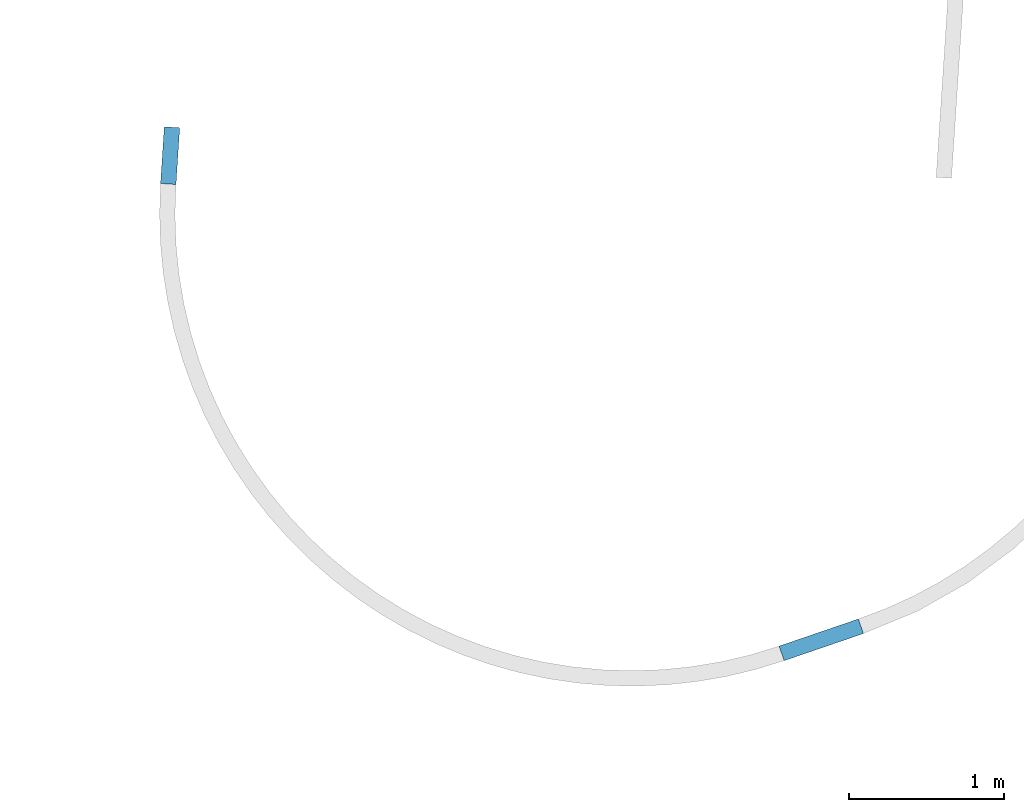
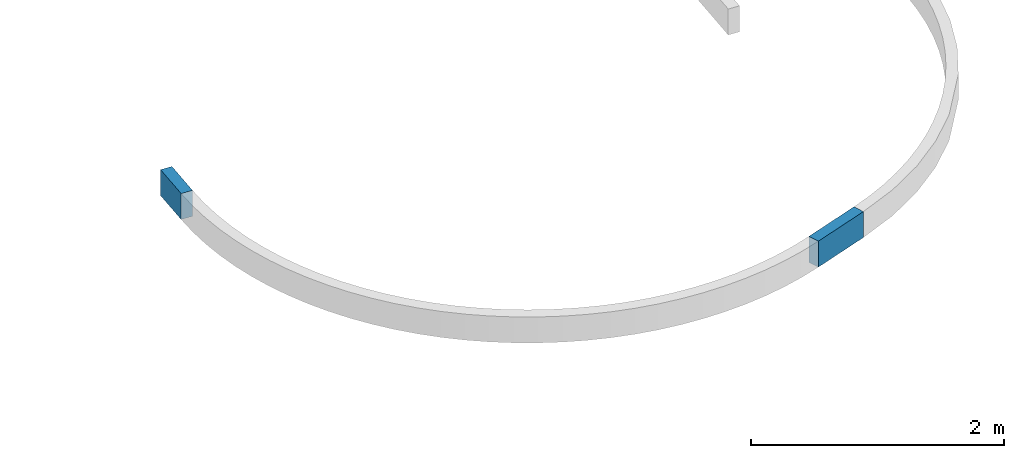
# One storey, part 8 of 112: 2 beams.
"""IFC2X3 building model written with IfcOpenShell, lengths in millimetres."""

from ifc_helpers import new_model, entity, si_unit, converted_unit, derived_unit, direction, frame, frame_2d, origin, place, context, subcontext, project, spatial, rectangle, extrude, material, type_object, element, save


model = new_model("IFC2X3")

# Units and contexts
model_context = context("Model", 3, precision=0.01, world=origin(), true_north=direction((6.123031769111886e-17, 1.0)))
body_context = subcontext(model_context, "Body", "Model", "MODEL_VIEW")
ifc_project = project(units=[si_unit("LENGTHUNIT", "METRE", prefix="MILLI"), si_unit("AREAUNIT", "SQUARE_METRE"), si_unit("VOLUMEUNIT", "CUBIC_METRE"), converted_unit("PLANEANGLEUNIT", "DEGREE", entity("IfcRatioMeasure", 0.017453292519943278), si_unit("PLANEANGLEUNIT", "RADIAN"), dimensions=[0, 0, 0, 0, 0, 0, 0]), si_unit("MASSUNIT", "GRAM", prefix="KILO"), derived_unit("MASSDENSITYUNIT", [(si_unit("MASSUNIT", "GRAM", prefix="KILO"), 1), (si_unit("LENGTHUNIT", "METRE"), -3)]), derived_unit("MOMENTOFINERTIAUNIT", [(si_unit("LENGTHUNIT", "METRE"), 4)]), si_unit("TIMEUNIT", "SECOND"), si_unit("FREQUENCYUNIT", "HERTZ"), si_unit("THERMODYNAMICTEMPERATUREUNIT", "DEGREE_CELSIUS"), derived_unit("THERMALTRANSMITTANCEUNIT", [(si_unit("MASSUNIT", "GRAM", prefix="KILO"), 1), (si_unit("THERMODYNAMICTEMPERATUREUNIT", "KELVIN"), -1), (si_unit("TIMEUNIT", "SECOND"), -3)]), derived_unit("THERMALCONDUCTANCEUNIT", [(si_unit("MASSUNIT", "GRAM", prefix="KILO"), 1), (si_unit("LENGTHUNIT", "METRE"), 1), (si_unit("THERMODYNAMICTEMPERATUREUNIT", "KELVIN"), -1), (si_unit("TIMEUNIT", "SECOND"), -3)]), derived_unit("VOLUMETRICFLOWRATEUNIT", [(si_unit("LENGTHUNIT", "METRE"), 3), (si_unit("TIMEUNIT", "SECOND"), -1)]), derived_unit("MASSFLOWRATEUNIT", [(si_unit("MASSUNIT", "GRAM", prefix="KILO"), 1), (si_unit("TIMEUNIT", "SECOND"), -1)]), derived_unit("ROTATIONALFREQUENCYUNIT", [(si_unit("TIMEUNIT", "SECOND"), -1)]), si_unit("ELECTRICCURRENTUNIT", "AMPERE"), si_unit("ELECTRICVOLTAGEUNIT", "VOLT"), si_unit("POWERUNIT", "WATT"), converted_unit("FORCEUNIT", "KIP", entity("IfcRatioMeasure", 2.088543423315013e-05), si_unit("FORCEUNIT", "NEWTON"), dimensions=[1, 1, -2, 0, 0, 0, 0]), si_unit("ILLUMINANCEUNIT", "LUX"), si_unit("LUMINOUSFLUXUNIT", "LUMEN"), si_unit("LUMINOUSINTENSITYUNIT", "CANDELA"), derived_unit("USERDEFINED", [(si_unit("MASSUNIT", "GRAM", prefix="KILO"), -1), (si_unit("LENGTHUNIT", "METRE"), -2), (si_unit("TIMEUNIT", "SECOND"), 3), (si_unit("LUMINOUSFLUXUNIT", "LUMEN"), 1)]), derived_unit("USERDEFINED", [(si_unit("MASSUNIT", "GRAM", prefix="KILO"), 1), (si_unit("LENGTHUNIT", "METRE"), 3), (si_unit("TIMEUNIT", "SECOND"), -3), (si_unit("ELECTRICCURRENTUNIT", "AMPERE"), -2)]), derived_unit("USERDEFINED", [(si_unit("LENGTHUNIT", "METRE"), 2), (si_unit("TIMEUNIT", "SECOND"), -2)]), derived_unit("SOUNDPOWERUNIT", [(si_unit("MASSUNIT", "GRAM", prefix="KILO"), 1), (si_unit("LENGTHUNIT", "METRE"), 2), (si_unit("TIMEUNIT", "SECOND"), -3)]), derived_unit("SOUNDPRESSUREUNIT", [(si_unit("MASSUNIT", "GRAM", prefix="KILO"), 1), (si_unit("LENGTHUNIT", "METRE"), -1), (si_unit("TIMEUNIT", "SECOND"), -2)]), derived_unit("LINEARVELOCITYUNIT", [(si_unit("LENGTHUNIT", "METRE"), 1), (si_unit("TIMEUNIT", "SECOND"), -1)]), si_unit("PRESSUREUNIT", "PASCAL"), derived_unit("USERDEFINED", [(si_unit("LENGTHUNIT", "METRE"), -2), (si_unit("MASSUNIT", "GRAM", prefix="KILO"), 1), (si_unit("TIMEUNIT", "SECOND"), -2)]), derived_unit("LINEARFORCEUNIT", [(si_unit("MASSUNIT", "GRAM", prefix="KILO"), 1), (si_unit("LENGTHUNIT", "METRE"), 1), (si_unit("TIMEUNIT", "SECOND"), -2), (si_unit("LENGTHUNIT", "METRE"), -1)]), derived_unit("PLANARFORCEUNIT", [(si_unit("MASSUNIT", "GRAM", prefix="KILO"), 1), (si_unit("LENGTHUNIT", "METRE"), 1), (si_unit("TIMEUNIT", "SECOND"), -2), (si_unit("LENGTHUNIT", "METRE"), -2)]), derived_unit("SPECIFICHEATCAPACITYUNIT", [(si_unit("LENGTHUNIT", "METRE"), 2), (si_unit("TIMEUNIT", "SECOND"), -2), (si_unit("THERMODYNAMICTEMPERATUREUNIT", "KELVIN"), -1)]), derived_unit("VAPORPERMEABILITYUNIT", [(si_unit("TIMEUNIT", "SECOND"), 1), (si_unit("LENGTHUNIT", "METRE"), -1)]), derived_unit("DYNAMICVISCOSITYUNIT", [(si_unit("MASSUNIT", "GRAM", prefix="KILO"), 1), (si_unit("LENGTHUNIT", "METRE"), -1), (si_unit("TIMEUNIT", "SECOND"), -1)]), derived_unit("THERMALEXPANSIONCOEFFICIENTUNIT", [(si_unit("THERMODYNAMICTEMPERATUREUNIT", "KELVIN"), -1)])], contexts=[model_context])

# Site, building, storey
site_placement = place(None, frame((0.0, 0.0, 0.0), z_axis=(0.0, 0.0, 1.0), x_axis=(0.8191520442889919, 0.5735764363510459, 0.0)))
site = spatial("IfcSite", under=ifc_project, at=site_placement, Name="Default", CompositionType="ELEMENT")
building_placement = place(site_placement, origin())
building = spatial("IfcBuilding", under=site, at=building_placement, CompositionType="ELEMENT")
storey_placement = place(building_placement, frame((0.0, 0.0, -3600.0)))
storey = spatial("IfcBuildingStorey", under=building, at=storey_placement, Name="0.UG -3.60", CompositionType="ELEMENT", Elevation=-3600.0000000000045)

# Beams
ifc_material = material(Name="Paveta_bordur")
beam_type_1 = type_object("IfcBeamType", Name="Beam-160 240377:Beam-160 240377", PredefinedType="NOTDEFINED")
beam_1_placement = place(storey_placement, origin())
element("IfcBeam", 1, at=beam_1_placement, inside=storey, type_object=beam_type_1, material=ifc_material, Name="Beam-160", ObjectType="Beam-160 240377:Beam-160 240377", context=body_context, shape_type="SweptSolid", body=[
    extrude(rectangle(XDim=250.00000000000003, YDim=100.00000000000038, at=frame_2d((2.7000623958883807e-13, 6.750155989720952e-12), x_axis=(1.0, 0.0))), frame((97798.66222278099, 128508.59577043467, 985.0), z_axis=(0.6258395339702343, 0.7799518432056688, 0.0), x_axis=(0.0, 0.0, -1.0)), (0.0, 0.0, 1.0), 367.24590164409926),
])
beam_type_2 = type_object("IfcBeamType", Name="Beam-164 236919:Beam-164 236919", PredefinedType="NOTDEFINED")
beam_2_placement = place(storey_placement, origin())
element("IfcBeam", 2, at=beam_2_placement, inside=storey, type_object=beam_type_2, material=ifc_material, Name="Beam-164", ObjectType="Beam-164 236919:Beam-164 236919", context=body_context, shape_type="SweptSolid", body=[
    extrude(rectangle(XDim=250.00000000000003, YDim=100.0000000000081, at=frame_2d((2.405187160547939e-12, -2.7000623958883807e-13), x_axis=(0.0, 1.0))), frame((99305.97519434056, 123748.7302322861, 985.0), z_axis=(0.9607329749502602, -0.27747459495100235, 0.0), x_axis=(-0.27747459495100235, -0.9607329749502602, 0.0)), (0.0, 0.0, 1.0), 541.7235324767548),
])

save(model, "model.ifc")
